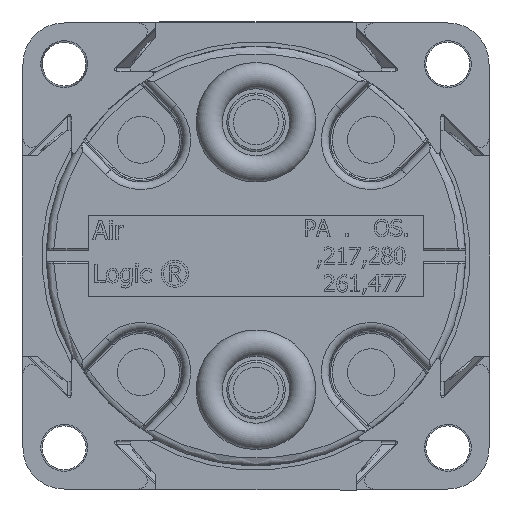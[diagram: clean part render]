
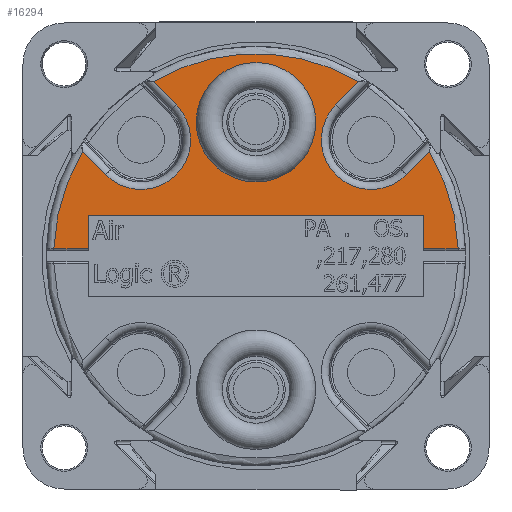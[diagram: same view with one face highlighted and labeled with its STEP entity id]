
A CAD part, front view. The second image highlights one B-rep face of the part: STEP entity #16294.
In plain terms, the highlighted planar face has unit normal (0, -1, 0).
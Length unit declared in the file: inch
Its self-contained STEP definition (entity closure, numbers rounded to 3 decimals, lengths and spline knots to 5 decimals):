
#903=FACE_BOUND('',#2753,.T.);
#977=CIRCLE('',#17203,0.54);
#987=CIRCLE('',#17217,0.54);
#1072=CIRCLE('',#17363,0.54);
#1084=CIRCLE('',#17384,0.1595);
#1085=CIRCLE('',#17385,0.1595);
#1086=CIRCLE('',#17386,0.1595);
#1096=CIRCLE('',#17402,0.13248);
#1097=CIRCLE('',#17403,0.13248);
#1802=FACE_OUTER_BOUND('',#2752,.T.);
#2752=EDGE_LOOP('',(#11298,#11299,#11300,#11301,#11302,#11303,#11304,#11305,
#11306,#11307,#11308,#11309,#11310,#11311));
#2753=EDGE_LOOP('',(#11312,#11313,#11314));
#3898=LINE('',#26351,#5232);
#3900=LINE('',#26387,#5234);
#3901=LINE('',#26389,#5235);
#3902=LINE('',#26391,#5236);
#3903=LINE('',#26392,#5237);
#3904=LINE('',#26394,#5238);
#3905=LINE('',#26397,#5239);
#3906=LINE('',#26399,#5240);
#3907=LINE('',#26402,#5241);
#5232=VECTOR('',#19390,0.3937);
#5234=VECTOR('',#19396,0.3937);
#5235=VECTOR('',#19397,0.3937);
#5236=VECTOR('',#19398,0.3937);
#5237=VECTOR('',#19399,0.3937);
#5238=VECTOR('',#19400,0.3937);
#5239=VECTOR('',#19403,0.3937);
#5240=VECTOR('',#19404,0.3937);
#5241=VECTOR('',#19407,0.3937);
#6365=VERTEX_POINT('',#23524);
#6369=VERTEX_POINT('',#23625);
#6375=VERTEX_POINT('',#23730);
#6393=VERTEX_POINT('',#23846);
#6793=VERTEX_POINT('',#25791);
#6801=VERTEX_POINT('',#25967);
#6818=VERTEX_POINT('',#26322);
#6819=VERTEX_POINT('',#26324);
#6820=VERTEX_POINT('',#26326);
#6828=VERTEX_POINT('',#26349);
#6830=VERTEX_POINT('',#26386);
#6831=VERTEX_POINT('',#26388);
#6832=VERTEX_POINT('',#26390);
#6833=VERTEX_POINT('',#26393);
#6834=VERTEX_POINT('',#26395);
#6835=VERTEX_POINT('',#26398);
#6836=VERTEX_POINT('',#26400);
#8025=EDGE_CURVE('',#6375,#6365,#977,.T.);
#8046=EDGE_CURVE('',#6393,#6369,#987,.T.);
#8507=EDGE_CURVE('',#6793,#6801,#1072,.T.);
#8540=EDGE_CURVE('',#6819,#6818,#1084,.T.);
#8541=EDGE_CURVE('',#6820,#6819,#1085,.T.);
#8542=EDGE_CURVE('',#6818,#6820,#1086,.T.);
#8552=EDGE_CURVE('',#6828,#6393,#3898,.T.);
#8556=EDGE_CURVE('',#6828,#6830,#3900,.T.);
#8557=EDGE_CURVE('',#6830,#6831,#3901,.T.);
#8558=EDGE_CURVE('',#6831,#6832,#3902,.T.);
#8559=EDGE_CURVE('',#6801,#6832,#3903,.T.);
#8560=EDGE_CURVE('',#6833,#6793,#3904,.T.);
#8561=EDGE_CURVE('',#6834,#6833,#1096,.T.);
#8562=EDGE_CURVE('',#6365,#6834,#3905,.T.);
#8563=EDGE_CURVE('',#6835,#6375,#3906,.T.);
#8564=EDGE_CURVE('',#6836,#6835,#1097,.T.);
#8565=EDGE_CURVE('',#6369,#6836,#3907,.T.);
#11298=ORIENTED_EDGE('',*,*,#8552,.F.);
#11299=ORIENTED_EDGE('',*,*,#8556,.T.);
#11300=ORIENTED_EDGE('',*,*,#8557,.T.);
#11301=ORIENTED_EDGE('',*,*,#8558,.T.);
#11302=ORIENTED_EDGE('',*,*,#8559,.F.);
#11303=ORIENTED_EDGE('',*,*,#8507,.F.);
#11304=ORIENTED_EDGE('',*,*,#8560,.F.);
#11305=ORIENTED_EDGE('',*,*,#8561,.F.);
#11306=ORIENTED_EDGE('',*,*,#8562,.F.);
#11307=ORIENTED_EDGE('',*,*,#8025,.F.);
#11308=ORIENTED_EDGE('',*,*,#8563,.F.);
#11309=ORIENTED_EDGE('',*,*,#8564,.F.);
#11310=ORIENTED_EDGE('',*,*,#8565,.F.);
#11311=ORIENTED_EDGE('',*,*,#8046,.F.);
#11312=ORIENTED_EDGE('',*,*,#8541,.T.);
#11313=ORIENTED_EDGE('',*,*,#8540,.T.);
#11314=ORIENTED_EDGE('',*,*,#8542,.T.);
#14848=PLANE('',#17401);
#16294=ADVANCED_FACE('',(#1802,#903),#14848,.T.);
#17203=AXIS2_PLACEMENT_3D('',#23740,#18788,#18789);
#17217=AXIS2_PLACEMENT_3D('',#23852,#18822,#18823);
#17363=AXIS2_PLACEMENT_3D('',#25968,#19312,#19313);
#17384=AXIS2_PLACEMENT_3D('',#26325,#19357,#19358);
#17385=AXIS2_PLACEMENT_3D('',#26327,#19359,#19360);
#17386=AXIS2_PLACEMENT_3D('',#26328,#19361,#19362);
#17401=AXIS2_PLACEMENT_3D('',#26385,#19394,#19395);
#17402=AXIS2_PLACEMENT_3D('',#26396,#19401,#19402);
#17403=AXIS2_PLACEMENT_3D('',#26401,#19405,#19406);
#18788=DIRECTION('center_axis',(0.,1.,0.));
#18789=DIRECTION('ref_axis',(0.507,0.,0.862));
#18822=DIRECTION('center_axis',(0.,1.,0.));
#18823=DIRECTION('ref_axis',(-0.856,0.,0.517));
#19312=DIRECTION('center_axis',(0.,1.,0.));
#19313=DIRECTION('ref_axis',(0.999,0.,0.036));
#19357=DIRECTION('center_axis',(0.,1.,0.));
#19358=DIRECTION('ref_axis',(0.,0.,-1.));
#19359=DIRECTION('center_axis',(0.,1.,0.));
#19360=DIRECTION('ref_axis',(0.,0.,-1.));
#19361=DIRECTION('center_axis',(0.,1.,0.));
#19362=DIRECTION('ref_axis',(0.,0.,-1.));
#19390=DIRECTION('',(-1.,0.,0.));
#19394=DIRECTION('center_axis',(0.,-1.,0.));
#19395=DIRECTION('ref_axis',(0.,0.,-1.));
#19396=DIRECTION('',(0.,0.,1.));
#19397=DIRECTION('',(1.,0.,0.));
#19398=DIRECTION('',(0.,0.,-1.));
#19399=DIRECTION('',(-1.,0.,0.));
#19400=DIRECTION('',(0.702,0.,0.712));
#19401=DIRECTION('center_axis',(0.,-1.,0.));
#19402=DIRECTION('ref_axis',(0.712,0.,-0.702));
#19403=DIRECTION('',(-0.702,0.,-0.712));
#19404=DIRECTION('',(-0.702,0.,0.712));
#19405=DIRECTION('center_axis',(0.,-1.,0.));
#19406=DIRECTION('ref_axis',(0.712,0.,0.702));
#19407=DIRECTION('',(0.702,0.,-0.712));
#23524=CARTESIAN_POINT('',(0.27405,-0.536,0.46529));
#23625=CARTESIAN_POINT('',(-0.46239,-0.536,0.27892));
#23730=CARTESIAN_POINT('',(-0.27405,-0.536,0.46529));
#23740=CARTESIAN_POINT('Origin',(0.,-0.536,
0.));
#23846=CARTESIAN_POINT('',(-0.53965,-0.536,0.01935));
#23852=CARTESIAN_POINT('Origin',(0.,-0.536,0.));
#25791=CARTESIAN_POINT('',(0.46239,-0.536,0.27892));
#25967=CARTESIAN_POINT('',(0.53965,-0.536,0.01935));
#25968=CARTESIAN_POINT('Origin',(0.,-0.536,0.));
#26322=CARTESIAN_POINT('',(-0.1595,-0.536,0.357));
#26324=CARTESIAN_POINT('',(0.,-0.536,0.1975));
#26325=CARTESIAN_POINT('Origin',(0.,-0.536,0.357));
#26326=CARTESIAN_POINT('',(0.1595,-0.536,0.357));
#26327=CARTESIAN_POINT('Origin',(0.,-0.536,0.357));
#26328=CARTESIAN_POINT('Origin',(0.,-0.536,0.357));
#26349=CARTESIAN_POINT('',(-0.44742,-0.536,0.01935));
#26351=CARTESIAN_POINT('',(-0.44742,-0.536,0.01935));
#26385=CARTESIAN_POINT('Origin',(-0.54005,-0.536,0.32303));
#26386=CARTESIAN_POINT('',(-0.44742,-0.536,0.10845));
#26387=CARTESIAN_POINT('',(-0.44742,-0.536,0.01935));
#26388=CARTESIAN_POINT('',(0.44742,-0.536,0.10845));
#26389=CARTESIAN_POINT('',(-0.44742,-0.536,0.10845));
#26390=CARTESIAN_POINT('',(0.44742,-0.536,0.01935));
#26391=CARTESIAN_POINT('',(0.44742,-0.536,0.10845));
#26392=CARTESIAN_POINT('',(0.53965,-0.536,0.01935));
#26393=CARTESIAN_POINT('',(0.40126,-0.536,0.21696));
#26394=CARTESIAN_POINT('',(0.40126,-0.536,0.21696));
#26395=CARTESIAN_POINT('',(0.21264,-0.536,0.40304));
#26396=CARTESIAN_POINT('Origin',(0.30695,-0.536,0.31));
#26397=CARTESIAN_POINT('',(0.27405,-0.536,0.46529));
#26398=CARTESIAN_POINT('',(-0.21264,-0.536,0.40304));
#26399=CARTESIAN_POINT('',(-0.21264,-0.536,0.40304));
#26400=CARTESIAN_POINT('',(-0.40126,-0.536,0.21696));
#26401=CARTESIAN_POINT('Origin',(-0.30695,-0.536,0.31));
#26402=CARTESIAN_POINT('',(-0.46239,-0.536,0.27892));
